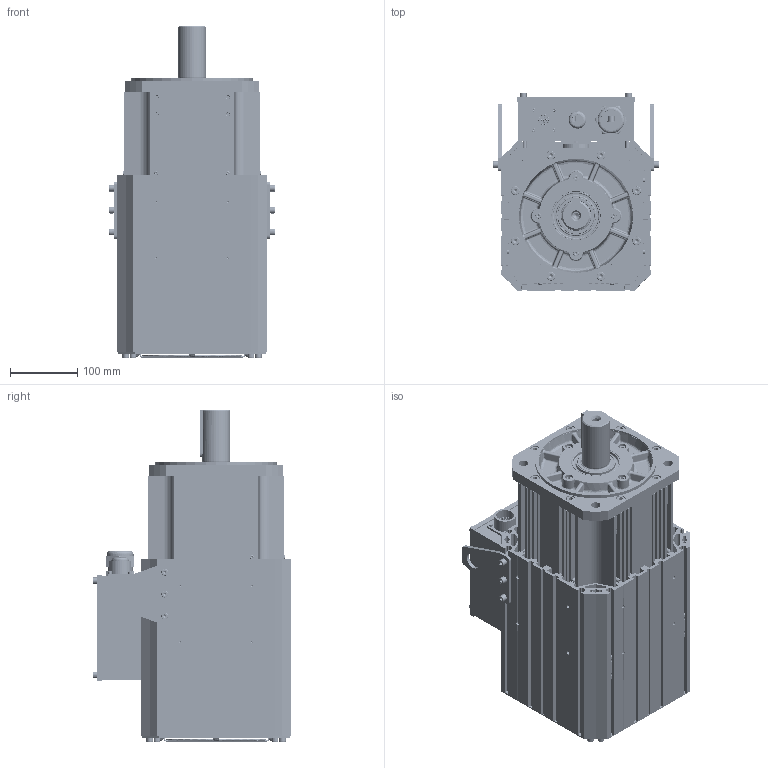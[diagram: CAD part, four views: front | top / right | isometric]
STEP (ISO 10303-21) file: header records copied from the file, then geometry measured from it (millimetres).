
FILE_DESCRIPTION (( 'STEP AP214' ), '1' );
FILE_NAME ('VM7-M20D-01115-D1FNH.STEP', '2022-04-02T01:40:02', ( '' ), ( '' ), 'SwSTEP 2.0', 'SolidWorks 2014', '' );
FILE_SCHEMA (( 'AUTOMOTIVE_DESIGN' ));
Length unit declared in the file: millimetre
Products named in the file (3): VM7-M20D-01115-D1FNH; 翋极ㄗVM7-M20Dㄘ; 俋褲ㄗVM7-M20Dㄘ
Assembly tree (2 placements, depth 2):
  VM7-M20D-01115-D1FNH
    翋极ㄗVM7-M20Dㄘ
    俋褲ㄗVM7-M20Dㄘ
Bounding box: 246.2 x 294.7 x 493 mm (x, y, z)
Volume: 2134379.2 mm3; surface area: 2221896.8 mm2
Topology: 45 solids, 187 shells, 5689 faces, 14529 edges, 9155 vertices
Faces by surface type: plane 3249, cylinder 1324, cone 587, bspline 529
Entity records: 187876 total; most frequent: CARTESIAN_POINT 50357, ORIENTED_EDGE 28556, DIRECTION 27805, EDGE_CURVE 14287, AXIS2_PLACEMENT_3D 9558, VERTEX_POINT 9155, LINE 8689, VECTOR 8689
